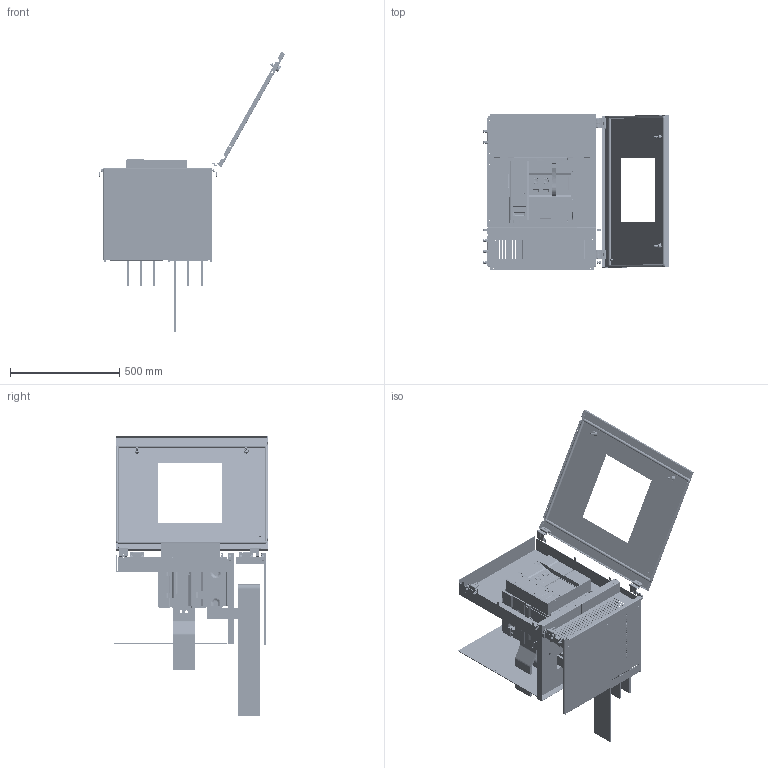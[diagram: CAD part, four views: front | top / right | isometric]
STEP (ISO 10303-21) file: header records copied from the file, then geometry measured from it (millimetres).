
FILE_DESCRIPTION(('CAx-IF Rec.Pracs.---Model Styling and Organization---1.2---2011-12-15','CAx-IF Rec.Pracs.---Geometric and Assembly Validation Properties---4.1---2014-06-16','CAx-IF Rec.Pracs.---PMI Polyline Presentation---2.0---2013-05-24'),'2;1');
FILE_NAME('R5M214IB4H61121R.stp','2021-05-05T12:48:00+03:00',(''),(''),'STEP Interface 4.4 by CT CoreTechnologie','3D_Evolution4.4 by CT CoreTechnologie','');
FILE_SCHEMA(('AUTOMOTIVE_DESIGN { 1 0 10303 214 1 1 1 1 }'));
Length unit declared in the file: millimetre
Products named in the file (34): R5M214IB4H61121R(äâóñòîðîííèé); AC00C485; LST2F_-00; M6 x 16-DIN 7991 ISR_thread; LST3F_-00; LSO1_-00; LSO2_-00; LST1F_-00; RB.0687.00.00.1_-00; LSDR3F_-00; RB.1227.00.00.0_-01; LSDR2F_-00; LSDR1F_-00; RB.1442.00.00.0_-00; RB.1440.00.00.0_-00; AC00C745; RB.1441.00.00.0_-00; RB.0116.00.00.2_-00; RB.1442.00.00.0_-01; RB.1443.00.00.0 ÑÁ_-00 (LS F); RB.1443.00.01.0_-00 (LS F); PF 7x14 MCC2.0_0700x0600; AC00C266; AC00C061_AC00C061; Ì6õ12-A5100231_straight; RB.1233.00.00.0_-01; RB.1596.00.00.0_-00 (LS F); RB.1226.00.00.0_-00; RB.1227.00.00.0_-00; MS737-1-1(1); MS737-1-1 Z_ ªàëâ; MS737-1-1 stop_fixed; 2000AF(630-1600) F 3P_-00; MS737-1-1(2)
Assembly tree (66 placements, depth 3):
  R5M214IB4H61121R(äâóñòîðîííèé)
    AC00C485  x12
    LST2F_-00
    M6 x 16-DIN 7991 ISR_thread  x12
    LST3F_-00
    LSO1_-00  x3
    LSO2_-00  x3
    LST1F_-00
    RB.0687.00.00.1_-00  x2
    LSDR3F_-00
    RB.1227.00.00.0_-01
    LSDR2F_-00
    LSDR1F_-00
    RB.1442.00.00.0_-00
    RB.1440.00.00.0_-00  x2
    AC00C745  x2
    RB.1441.00.00.0_-00
    RB.0116.00.00.2_-00  x2
    RB.1442.00.00.0_-01
    RB.1443.00.00.0 ÑÁ_-00 (LS F)
      RB.1443.00.01.0_-00 (LS F)
      PF 7x14 MCC2.0_0700x0600
      AC00C266  x2
      AC00C061_AC00C061
      Ì6õ12-A5100231_straight
    RB.1233.00.00.0_-01
    RB.1596.00.00.0_-00 (LS F)
    RB.1226.00.00.0_-00
    RB.1227.00.00.0_-00
    MS737-1-1(1)
      MS737-1-1 Z_ ªàëâ
      MS737-1-1 stop_fixed
    2000AF(630-1600) F 3P_-00
    MS737-1-1(2)
      MS737-1-1 Z_ ªàëâ
      MS737-1-1 stop_fixed
Bounding box: 850.72 x 717 x 1282.39 mm (x, y, z)
Surface area: 5885898.5 mm2 (no closed solid volume)
Topology: 0 solids, 127 shells, 7260 faces, 22937 edges, 15274 vertices
Faces by surface type: plane 4221, cylinder 2443, bspline 596
Entity records: 220782 total; most frequent: CARTESIAN_POINT 51032, ORIENTED_EDGE 34347, DIRECTION 34061, EDGE_CURVE 19107, VECTOR 13991, LINE 13991, VERTEX_POINT 12942, AXIS2_PLACEMENT_3D 10035
